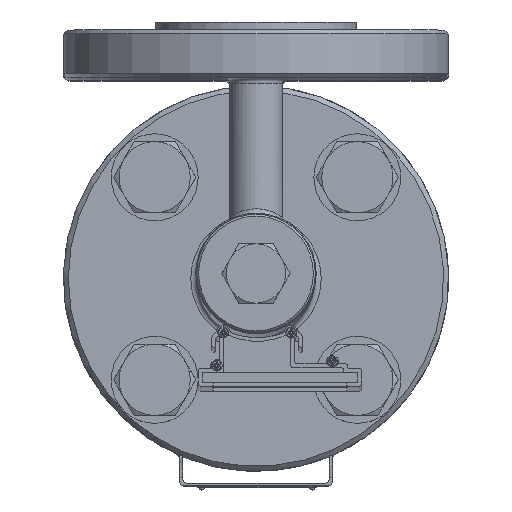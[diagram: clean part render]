
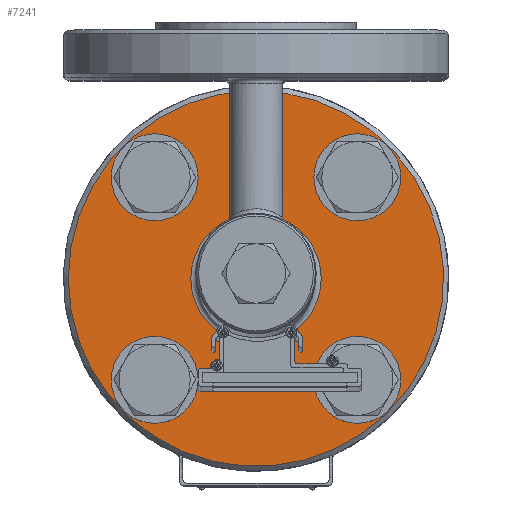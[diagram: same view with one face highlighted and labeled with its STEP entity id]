
A CAD part, top view. The second image highlights one B-rep face of the part: STEP entity #7241.
In plain terms, the highlighted planar face has unit normal (0, 0, 1).
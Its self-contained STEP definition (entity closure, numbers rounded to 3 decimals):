
#1510=PLANE('',#7747);
#1764=FACE_BOUND('',#2420,.T.);
#1765=FACE_BOUND('',#2421,.T.);
#1766=FACE_BOUND('',#2422,.T.);
#1767=FACE_BOUND('',#2423,.T.);
#1768=FACE_BOUND('',#2424,.T.);
#1928=FACE_OUTER_BOUND('',#2419,.T.);
#2419=EDGE_LOOP('',(#5166));
#2420=EDGE_LOOP('',(#5167));
#2421=EDGE_LOOP('',(#5168));
#2422=EDGE_LOOP('',(#5169));
#2423=EDGE_LOOP('',(#5170));
#2424=EDGE_LOOP('',(#5171));
#3020=CIRCLE('',#7746,14.);
#3021=CIRCLE('',#7748,95.);
#3022=CIRCLE('',#7749,14.);
#3023=CIRCLE('',#7750,14.);
#3024=CIRCLE('',#7751,33.);
#3025=CIRCLE('',#7752,14.);
#3399=VERTEX_POINT('',#10956);
#3400=VERTEX_POINT('',#10959);
#3401=VERTEX_POINT('',#10961);
#3402=VERTEX_POINT('',#10963);
#3403=VERTEX_POINT('',#10965);
#3404=VERTEX_POINT('',#10967);
#4120=EDGE_CURVE('',#3399,#3399,#3020,.T.);
#4121=EDGE_CURVE('',#3400,#3400,#3021,.T.);
#4122=EDGE_CURVE('',#3401,#3401,#3022,.T.);
#4123=EDGE_CURVE('',#3402,#3402,#3023,.T.);
#4124=EDGE_CURVE('',#3403,#3403,#3024,.T.);
#4125=EDGE_CURVE('',#3404,#3404,#3025,.T.);
#5166=ORIENTED_EDGE('',*,*,#4121,.F.);
#5167=ORIENTED_EDGE('',*,*,#4122,.F.);
#5168=ORIENTED_EDGE('',*,*,#4123,.F.);
#5169=ORIENTED_EDGE('',*,*,#4124,.F.);
#5170=ORIENTED_EDGE('',*,*,#4125,.F.);
#5171=ORIENTED_EDGE('',*,*,#4120,.F.);
#7241=ADVANCED_FACE('',(#1928,#1764,#1765,#1766,#1767,#1768),#1510,.T.);
#7746=AXIS2_PLACEMENT_3D('',#10957,#8694,#8695);
#7747=AXIS2_PLACEMENT_3D('',#10958,#8696,#8697);
#7748=AXIS2_PLACEMENT_3D('',#10960,#8698,#8699);
#7749=AXIS2_PLACEMENT_3D('',#10962,#8700,#8701);
#7750=AXIS2_PLACEMENT_3D('',#10964,#8702,#8703);
#7751=AXIS2_PLACEMENT_3D('',#10966,#8704,#8705);
#7752=AXIS2_PLACEMENT_3D('',#10968,#8706,#8707);
#8694=DIRECTION('center_axis',(0.,0.,1.));
#8695=DIRECTION('ref_axis',(1.,0.,0.));
#8696=DIRECTION('center_axis',(0.,0.,1.));
#8697=DIRECTION('ref_axis',(1.,0.,0.));
#8698=DIRECTION('center_axis',(0.,0.,-1.));
#8699=DIRECTION('ref_axis',(1.,0.,0.));
#8700=DIRECTION('center_axis',(0.,0.,1.));
#8701=DIRECTION('ref_axis',(1.,0.,0.));
#8702=DIRECTION('center_axis',(0.,0.,1.));
#8703=DIRECTION('ref_axis',(1.,0.,0.));
#8704=DIRECTION('center_axis',(0.,0.,1.));
#8705=DIRECTION('ref_axis',(1.,0.,0.));
#8706=DIRECTION('center_axis',(0.,0.,1.));
#8707=DIRECTION('ref_axis',(1.,0.,0.));
#10956=CARTESIAN_POINT('',(-65.265,51.265,28.));
#10957=CARTESIAN_POINT('Origin',(-51.265,51.265,28.));
#10958=CARTESIAN_POINT('Origin',(0.,0.,
28.));
#10959=CARTESIAN_POINT('',(-95.,0.,28.));
#10960=CARTESIAN_POINT('Origin',(0.,0.,28.));
#10961=CARTESIAN_POINT('',(37.265,51.265,28.));
#10962=CARTESIAN_POINT('Origin',(51.265,51.265,28.));
#10963=CARTESIAN_POINT('',(37.265,-51.265,28.));
#10964=CARTESIAN_POINT('Origin',(51.265,-51.265,28.));
#10965=CARTESIAN_POINT('',(-33.,0.,28.));
#10966=CARTESIAN_POINT('Origin',(0.,0.,28.));
#10967=CARTESIAN_POINT('',(-65.265,-51.265,28.));
#10968=CARTESIAN_POINT('Origin',(-51.265,-51.265,28.));
